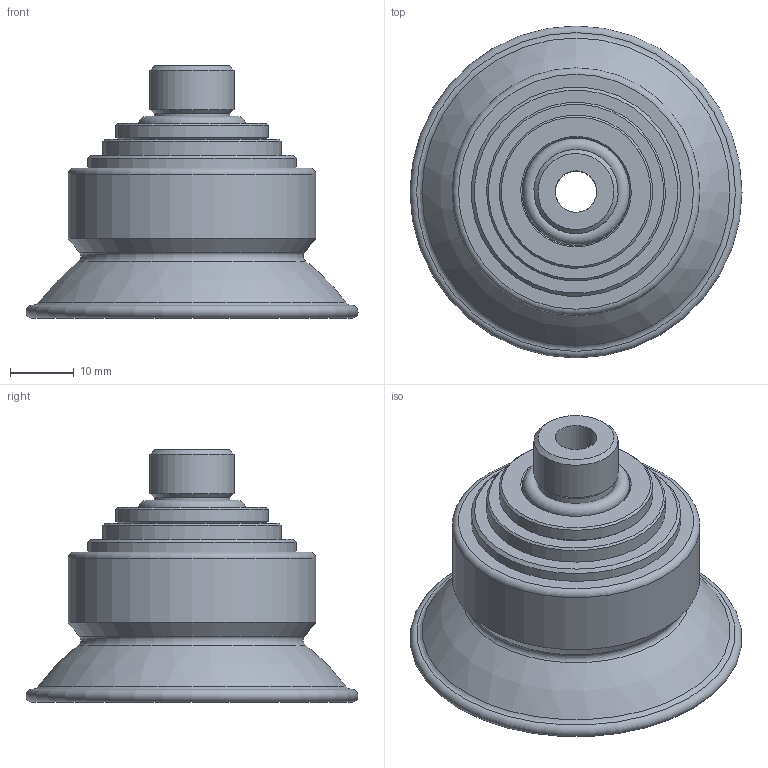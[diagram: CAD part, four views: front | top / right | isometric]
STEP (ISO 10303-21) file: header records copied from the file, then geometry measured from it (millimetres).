
FILE_DESCRIPTION( ( 'Unknown' ), '1' );
FILE_NAME( 'D:/弥龋覆(冠固急)/Smart Cup/寇何侩-唱荤魂TYPE/FCF50-14M.stp', 'Unknown', ( 'Unknown' ), ( 'Unknown' ), 'PSStep 10.0', 'Unknown', ' ' );
FILE_SCHEMA( ( 'AUTOMOTIVE_DESIGN { 1 0 10303 214 1 1 1 1 }' ) );
Length unit declared in the file: millimetre
Products named in the file (5): Assem1; FCF50; VDF-FCF-12F; VDF-FCF-12M14M; 14M-oring
Bounding box: 52 x 52 x 39.5 mm (x, y, z)
Volume: 47798.9 mm3; surface area: 36118.8 mm2
Topology: 8 solids, 8 shells, 142 faces, 246 edges, 142 vertices
Faces by surface type: cylinder 44, cone 40, plane 38, torus 14, bspline 4, sphere 2
Full cylindrical faces by diameter (mm): 6.5 x2, 9.5 x2, 11.9 x2, 13.2 x2, 16 x4, 16.8 x2, 16.9 x2, 18.631 x2, 19 x2, 21 x2, 24 x6, 28 x2, 30.8 x2, 31.8 x2, 32.8 x6, 38.8 x2, 40.797 x2
Entity records: 2126 total; most frequent: DIRECTION 288, CARTESIAN_POINT 270, AXIS2_PLACEMENT_3D 144, EDGE_LOOP 140, ORIENTED_EDGE 140, FACE_OUTER_BOUND 101, STYLED_ITEM 71, PRESENTATION_STYLE_ASSIGNMENT 71
